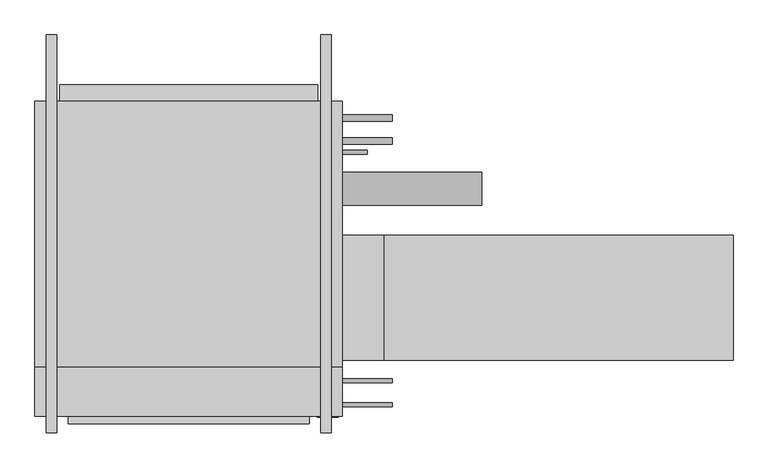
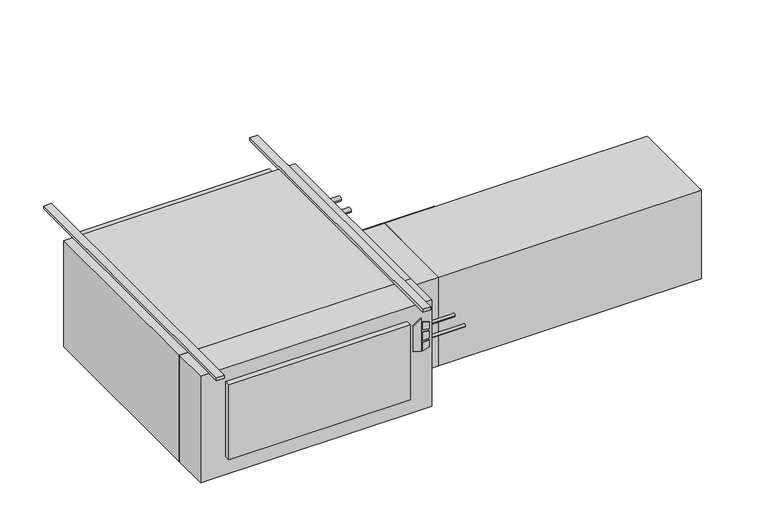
"""IFC4 building model written with IfcOpenShell, lengths in millimetres: proxy geometry."""

from ifc_helpers import new_model, si_unit, point, frame, frame_2d, origin, origin_with_axes, place, context, project, spatial, polyline, circle_curve, trimmed, segment, composite_curve, outline, extrude, source, transform, mapped, element, save


def mechanical_equipment_22873e4c(model_context):
    return source(origin(), model_context, "Body", "SweptSolid", [
        extrude(outline(polyline([(-193.2519297, 544.5868862), (-203.2, 576.7602728), (-61.0290756, 576.7602728), (-84.0510817, 544.5868862), (-193.2519297, 544.5868862)])), frame((0.0, -797.052, 0.0), z_axis=(0.0, 1.0, 0.0), x_axis=(0.0, 0.0, 1.0)), (0.0, 0.0, 1.0), 3.175),
        extrude(outline(polyline([(-114.2526443, 583.5186058), (-117.4550368, 609.6), (-88.2261958, 609.6), (-80.1617807, 583.5186058), (-114.2526443, 583.5186058)])), frame((0.0, -797.052, 0.0), z_axis=(0.0, 1.0, 0.0), x_axis=(0.0, 0.0, 1.0)), (0.0, 0.0, 1.0), 3.175),
        extrude(outline(polyline([(-166.1161712, 609.6), (-169.7816721, 583.5186058), (-203.2, 583.5186058), (-194.5657628, 609.6), (-166.1161712, 609.6)])), frame((0.0, -797.052, 0.0), z_axis=(0.0, 1.0, 0.0), x_axis=(0.0, 0.0, 1.0)), (0.0, 0.0, 1.0), 3.175),
        extrude(outline(polyline([(-126.8010097, 609.6), (-124.5191834, 583.5186058), (-160.4567319, 583.5186058), (-157.7154669, 609.6), (-126.8010097, 609.6)])), frame((0.0, -797.052, 0.0), z_axis=(0.0, 1.0, 0.0), x_axis=(0.0, 0.0, 1.0)), (0.0, 0.0, 1.0), 3.175),
        extrude(outline(polyline([(622.3, -793.877), (-317.5, -793.877), (-317.5, -644.525), (622.3, -644.525), (622.3, -793.877)])), frame((0.0, 0.0, -457.2), z_axis=(0.0, 0.0, 1.0), x_axis=(1.0, 0.0, 0.0)), (0.0, 0.0, 1.0), 457.2),
        extrude(outline(polyline([(520.7, -816.229), (-215.9, -816.229), (-215.9, -793.877), (520.7, -793.877), (520.7, -816.229)])), frame((0.0, 0.0, -381.0), z_axis=(0.0, 0.0, 1.0), x_axis=(1.0, 0.0, 0.0)), (0.0, 0.0, 1.0), 323.85),
        extrude(outline(polyline([(1816.1, -241.3), (1816.1, -622.3), (749.3, -622.3), (749.3, -241.3), (1816.1, -241.3)])), frame((0.0, 0.0, -431.8), z_axis=(0.0, 0.0, 1.0), x_axis=(1.0, 0.0, 0.0)), (0.0, 0.0, 1.0), 381.0),
        extrude(outline(polyline([(749.3, -241.3), (749.3, -622.3), (622.3, -622.3), (622.3, -241.3), (749.3, -241.3)])), frame((0.0, 0.0, -431.8), z_axis=(0.0, 0.0, 1.0), x_axis=(1.0, 0.0, 0.0)), (0.0, 0.0, 1.0), 381.0),
        extrude(outline(composite_curve([segment(trimmed(circle_curve(frame_2d((-758.825, -184.15)), 6.35), [point((-752.475, -184.15))], [point((-765.175, -184.15))], False, "CARTESIAN"), True, "CONTINUOUS"), segment(trimmed(circle_curve(frame_2d((-758.825, -184.15)), 6.35), [point((-765.175, -184.15))], [point((-752.475, -184.15))], False, "CARTESIAN"), True, "CONTINUOUS")], self_intersect=False)), frame((622.3, 0.0, 0.0), z_axis=(1.0, 0.0, 0.0), x_axis=(0.0, 1.0, 0.0)), (0.0, 0.0, 1.0), 152.4),
        extrude(outline(composite_curve([segment(trimmed(circle_curve(frame_2d((-685.8, -184.15)), 6.35), [point((-679.45, -184.15))], [point((-692.15, -184.15))], False, "CARTESIAN"), True, "CONTINUOUS"), segment(trimmed(circle_curve(frame_2d((-685.8, -184.15)), 6.35), [point((-692.15, -184.15))], [point((-679.45, -184.15))], False, "CARTESIAN"), True, "CONTINUOUS")], self_intersect=False)), frame((622.3, 0.0, 0.0), z_axis=(1.0, 0.0, 0.0), x_axis=(0.0, 1.0, 0.0)), (0.0, 0.0, 1.0), 152.4),
        extrude(outline(composite_curve([segment(trimmed(circle_curve(frame_2d((117.475, -171.45)), 9.525), [point((127.0, -171.45))], [point((107.95, -171.45))], False, "CARTESIAN"), True, "CONTINUOUS"), segment(trimmed(circle_curve(frame_2d((117.475, -171.45)), 9.525), [point((107.95, -171.45))], [point((127.0, -171.45))], False, "CARTESIAN"), True, "CONTINUOUS")], self_intersect=False)), frame((622.3, 0.0, 0.0), z_axis=(1.0, 0.0, 0.0), x_axis=(0.0, 1.0, 0.0)), (0.0, 0.0, 1.0), 152.4),
        extrude(outline(composite_curve([segment(trimmed(circle_curve(frame_2d((47.625, -177.8)), 9.525), [point((57.15, -177.8))], [point((38.1, -177.8))], False, "CARTESIAN"), True, "CONTINUOUS"), segment(trimmed(circle_curve(frame_2d((47.625, -177.8)), 9.525), [point((38.1, -177.8))], [point((57.15, -177.8))], False, "CARTESIAN"), True, "CONTINUOUS")], self_intersect=False)), frame((622.3, 0.0, 0.0), z_axis=(1.0, 0.0, 0.0), x_axis=(0.0, 1.0, 0.0)), (0.0, 0.0, 1.0), 152.4),
        extrude(outline(composite_curve([segment(trimmed(circle_curve(frame_2d((-98.4896516, -228.6360165)), 50.8), [point((-47.6896516, -228.6360165))], [point((-149.2896516, -228.6360165))], False, "CARTESIAN"), True, "CONTINUOUS"), segment(trimmed(circle_curve(frame_2d((-98.4896516, -228.6360165)), 50.8), [point((-149.2896516, -228.6360165))], [point((-47.6896516, -228.6360165))], False, "CARTESIAN"), True, "CONTINUOUS")], self_intersect=False)), frame((622.3, 0.0, 0.0), z_axis=(1.0, 0.0, 0.0), x_axis=(0.0, 1.0, 0.0)), (0.0, 0.0, 1.0), 425.45),
        extrude(outline(composite_curve([segment(trimmed(circle_curve(frame_2d((12.7, -409.575)), 6.35), [point((19.05, -409.575))], [point((6.35, -409.575))], False, "CARTESIAN"), True, "CONTINUOUS"), segment(trimmed(circle_curve(frame_2d((12.7, -409.575)), 6.35), [point((6.35, -409.575))], [point((19.05, -409.575))], False, "CARTESIAN"), True, "CONTINUOUS")], self_intersect=False)), frame((622.3, 0.0, 0.0), z_axis=(1.0, 0.0, 0.0), x_axis=(0.0, 1.0, 0.0)), (0.0, 0.0, 1.0), 76.2),
        extrude(outline(polyline([(622.3, 168.275), (622.3, -644.525), (-317.5, -644.525), (-317.5, 168.275), (622.3, 168.275)])), frame((0.0, 0.0, -457.2), z_axis=(0.0, 0.0, 1.0), x_axis=(1.0, 0.0, 0.0)), (0.0, 0.0, 1.0), 457.2),
        extrude(outline(polyline([(-241.3, 219.075), (546.1, 219.075), (546.1, 168.275), (-241.3, 168.275), (-241.3, 219.075)])), frame((0.0, 0.0, -381.0), z_axis=(0.0, 0.0, 1.0), x_axis=(1.0, 0.0, 0.0)), (0.0, 0.0, 1.0), 355.6),
        extrude(outline(polyline([(-250.825, 371.475), (-250.825, -844.677), (-282.575, -844.677), (-282.575, 371.475), (-250.825, 371.475)])), origin_with_axes(), (0.0, 0.0, 1.0), 12.7),
        extrude(outline(polyline([(587.375, 371.475), (587.375, -844.677), (555.625, -844.677), (555.625, 371.475), (587.375, 371.475)])), origin_with_axes(), (0.0, 0.0, 1.0), 12.7),
    ])


if __name__ == "__main__":
    model = new_model("IFC4")
    model_context = context("Model", 3, world=origin())
    ifc_project = project(units=[si_unit("LENGTHUNIT", "METRE", prefix="MILLI")], contexts=[model_context])
    site = spatial("IfcSite", under=ifc_project)
    building = spatial("IfcBuilding", under=site)
    placement = place(None, origin())
    mechanical_equipment_shape = mechanical_equipment_22873e4c(model_context)
    element("IfcBuildingElementProxy", 1, Name="High_Capacity_Horizontal_Cabinet_Fan_Coil_Unit_-_HTY_-_IEC_-_4-Pipe_RH Side_2022 : Size 12 - 115v/60Hz/1Ph - 4/1 Coil - 4\" AirIn", ObjectType="High_Capacity_Horizontal_Cabinet_Fan_Coil_Unit_-_HTY_-_IEC_-_4-Pipe_RH Side_2022 : Size 12 - 115v/60Hz/1Ph - 4/1 Coil - 4\" AirIn", at=placement, inside=building, context=model_context, shape_type="MappedRepresentation", body=[
        mapped(mechanical_equipment_shape, transform((0.0, 0.0, 0.0), x_axis=(1.0, 0.0, 0.0), y_axis=(0.0, 1.0, 0.0), z_axis=(0.0, 0.0, 1.0))),
    ])
    save(model, "model.ifc")
